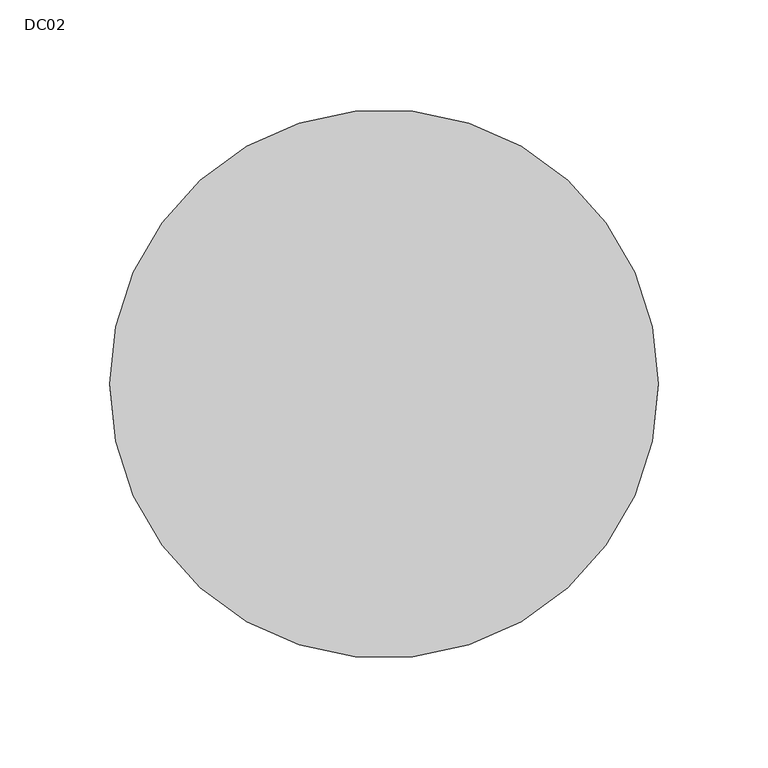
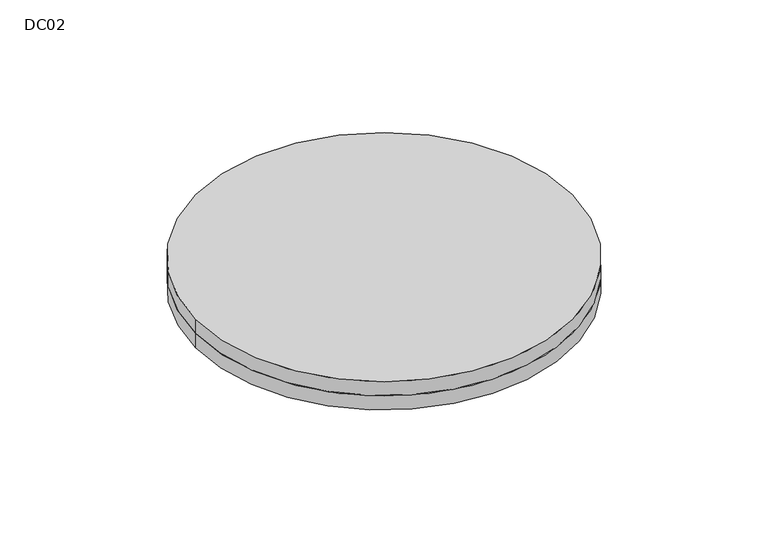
"""IFC4 building model written with IfcOpenShell, lengths in millimetres: air terminal geometry, ZYR_03.06.08.01 Difusor Rotacional Circular Impulsió NO PLENUM : DC02."""

from ifc_helpers import new_model, si_unit, point, frame, origin, origin_with_axes, origin_2d, place, context, project, spatial, polyline, circle_curve, trimmed, segment, composite_curve, outline, extrude, source, transform, mapped, element, save


def dc02_a4d2196a(model_context):
    return source(origin(), model_context, "Body", "SweptSolid", [
        extrude(outline(polyline([(12.3743687, 30.0520382), (68.8019506, 86.4796202), (86.4796202, 68.8019506), (30.0520382, 12.3743687), (12.3743687, 30.0520382)])), frame((0.0, 0.0, -10.0), z_axis=(0.0, 0.0, 1.0), x_axis=(1.0, 0.0, 0.0)), (0.0, 0.0, 1.0), 10.0),
        extrude(outline(polyline([(-12.3743687, 30.0520382), (-30.0520382, 12.3743687), (-86.4796202, 68.8019506), (-68.8019506, 86.4796202), (-12.3743687, 30.0520382)])), frame((0.0, 0.0, -10.0), z_axis=(0.0, 0.0, 1.0), x_axis=(1.0, 0.0, 0.0)), (0.0, 0.0, 1.0), 10.0),
        extrude(outline(polyline([(12.3743687, -30.0520382), (30.0520382, -12.3743687), (86.4796202, -68.8019506), (68.8019506, -86.4796202), (12.3743687, -30.0520382)])), frame((0.0, 0.0, -10.0), z_axis=(0.0, 0.0, 1.0), x_axis=(1.0, 0.0, 0.0)), (0.0, 0.0, 1.0), 10.0),
        extrude(outline(polyline([(-12.3743687, -30.0520382), (-68.8019506, -86.4796202), (-86.4796202, -68.8019506), (-30.0520382, -12.3743687), (-12.3743687, -30.0520382)])), frame((0.0, 0.0, -10.0), z_axis=(0.0, 0.0, 1.0), x_axis=(1.0, 0.0, 0.0)), (0.0, 0.0, 1.0), 10.0),
        extrude(outline(polyline([(-32.5, -12.5), (-112.3006517, -12.5), (-112.3006517, 12.5), (-32.5, 12.5), (-32.5, -12.5)])), frame((0.0, 0.0, -10.0), z_axis=(0.0, 0.0, 1.0), x_axis=(1.0, 0.0, 0.0)), (0.0, 0.0, 1.0), 10.0),
        extrude(outline(polyline([(32.5, -12.5), (32.5, 12.5), (112.3006517, 12.5), (112.3006517, -12.5), (32.5, -12.5)])), frame((0.0, 0.0, -10.0), z_axis=(0.0, 0.0, 1.0), x_axis=(1.0, 0.0, 0.0)), (0.0, 0.0, 1.0), 10.0),
        extrude(outline(polyline([(-12.5, 32.6241447), (-12.5, 112.4247964), (12.5, 112.4247964), (12.5, 32.6241447), (-12.5, 32.6241447)])), frame((0.0, 0.0, -10.0), z_axis=(0.0, 0.0, 1.0), x_axis=(1.0, 0.0, 0.0)), (0.0, 0.0, 1.0), 10.0),
        extrude(outline(polyline([(-12.5, -32.6241447), (12.5, -32.6241447), (12.5, -112.4247964), (-12.5, -112.4247964), (-12.5, -32.6241447)])), frame((0.0, 0.0, -10.0), z_axis=(0.0, 0.0, 1.0), x_axis=(1.0, 0.0, 0.0)), (0.0, 0.0, 1.0), 10.0),
        extrude(outline(composite_curve([segment(trimmed(circle_curve(origin_2d(), 125.0), [point((-125.0, 0.0))], [point((125.0, 0.0))], False, "CARTESIAN"), True, "CONTINUOUS"), segment(trimmed(circle_curve(origin_2d(), 125.0), [point((125.0, 0.0))], [point((-125.0, 0.0))], False, "CARTESIAN"), True, "CONTINUOUS")], self_intersect=False), holes=[composite_curve([segment(trimmed(circle_curve(origin_2d(), 119.8006517), [point((-119.8006517, 0.0))], [point((119.8006517, 0.0))], True, "CARTESIAN"), True, "CONTINUOUS"), segment(trimmed(circle_curve(origin_2d(), 119.8006517), [point((119.8006517, 0.0))], [point((-119.8006517, 0.0))], True, "CARTESIAN"), True, "CONTINUOUS")], self_intersect=False)]), frame((0.0, 0.0, -10.0), z_axis=(0.0, 0.0, 1.0), x_axis=(1.0, 0.0, 0.0)), (0.0, 0.0, 1.0), 10.0),
        extrude(outline(composite_curve([segment(trimmed(circle_curve(origin_2d(), 125.0), [point((-125.0, 0.0))], [point((125.0, 0.0))], False, "CARTESIAN"), True, "CONTINUOUS"), segment(trimmed(circle_curve(origin_2d(), 125.0), [point((125.0, 0.0))], [point((-125.0, 0.0))], False, "CARTESIAN"), True, "CONTINUOUS")], self_intersect=False)), origin_with_axes(), (0.0, 0.0, 1.0), 10.0),
    ])


if __name__ == "__main__":
    model = new_model("IFC4")
    model_context = context("Model", 3, world=origin())
    ifc_project = project(units=[si_unit("LENGTHUNIT", "METRE", prefix="MILLI")], contexts=[model_context])
    site = spatial("IfcSite", under=ifc_project)
    building = spatial("IfcBuilding", under=site)
    placement = place(None, origin())
    dc02_shape = dc02_a4d2196a(model_context)
    element("IfcAirTerminal", 1, ObjectType="ZYR_03.06.08.01 Difusor Rotacional Circular Impulsió NO PLENUM : DC02", at=placement, inside=building, context=model_context, shape_type="MappedRepresentation", body=[
        mapped(dc02_shape, transform((0.0, 0.0, 0.0), x_axis=(1.0, 0.0, 0.0), y_axis=(0.0, 1.0, 0.0), z_axis=(0.0, 0.0, 1.0))),
    ])
    save(model, "model.ifc")
